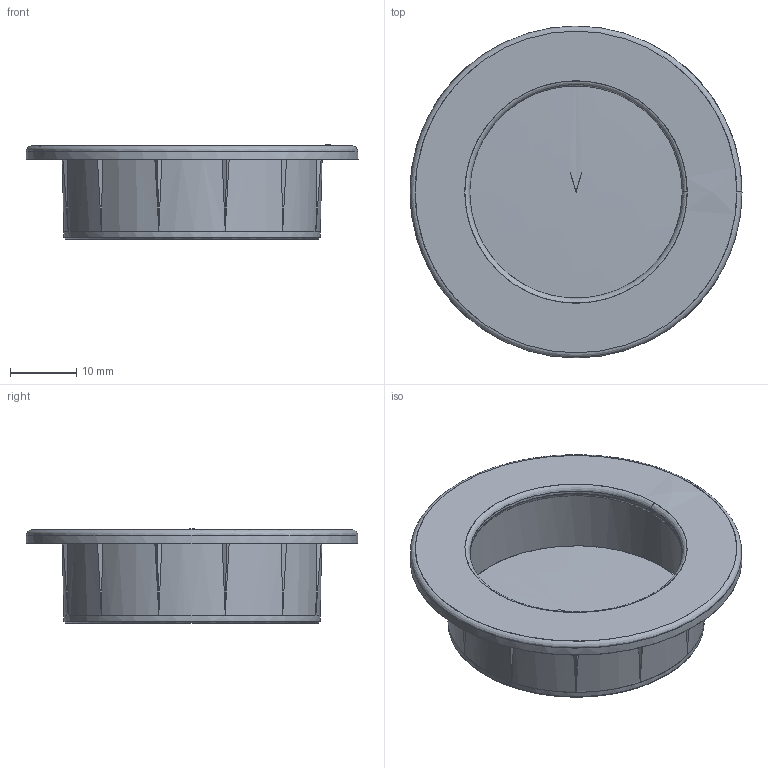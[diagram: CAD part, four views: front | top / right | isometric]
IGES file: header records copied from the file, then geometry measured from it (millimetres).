
Start section: C
Global section: file name: 8276-50.igs; native system: By Siemens PLM Incorporated; preprocessor: XPlus GENERIC/IGES 16.0.42; author: Author; organization: Title; date: 20210331.082729; units: millimetre
Bounding box: 50 x 50 x 14.2 mm (x, y, z)
Surface area: 7602.6 mm2 (no closed solid volume)
Topology: 0 solids, 0 shells, 47 faces, 265 edges, 264 vertices
Faces by surface type: bspline 47
